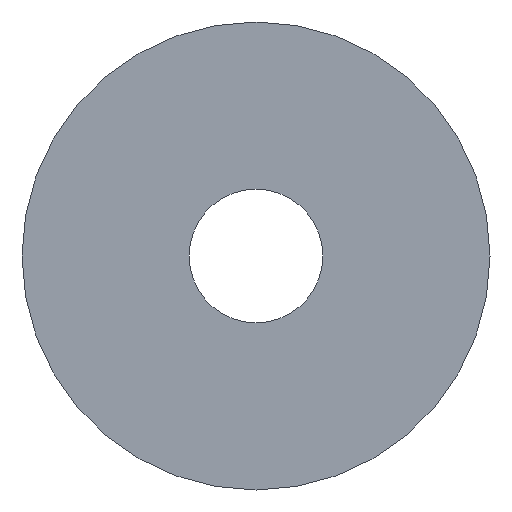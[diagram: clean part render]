
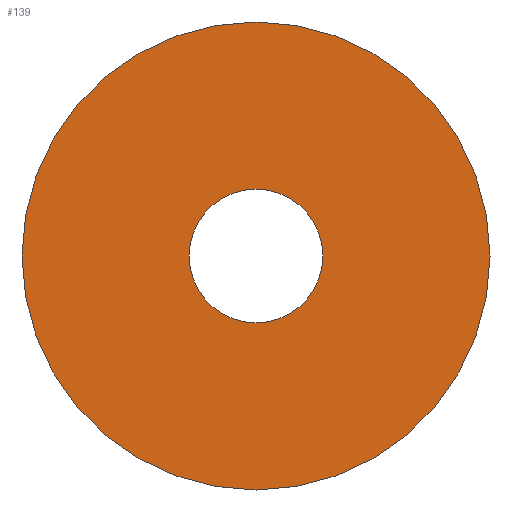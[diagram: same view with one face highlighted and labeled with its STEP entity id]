
A CAD part, left-side view. The second image highlights one B-rep face of the part: STEP entity #139.
In plain terms, the highlighted planar face has unit normal (-1, 0, 0).
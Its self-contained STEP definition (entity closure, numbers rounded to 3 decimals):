
#31 = CYLINDRICAL_SURFACE('',#32,3.5);
#32 = AXIS2_PLACEMENT_3D('',#33,#34,#35);
#33 = CARTESIAN_POINT('',(-53.,28.,244.5));
#34 = DIRECTION('',(1.,0.,0.));
#35 = DIRECTION('',(0.,0.,1.));
#56 = VERTEX_POINT('',#57);
#57 = CARTESIAN_POINT('',(-53.,28.,241.));
#77 = EDGE_CURVE('',#56,#56,#78,.T.);
#78 = SURFACE_CURVE('',#79,(#84,#91),.PCURVE_S1.);
#79 = CIRCLE('',#80,3.5);
#80 = AXIS2_PLACEMENT_3D('',#81,#82,#83);
#81 = CARTESIAN_POINT('',(-53.,28.,244.5));
#82 = DIRECTION('',(1.,-0.,0.));
#83 = DIRECTION('',(0.,0.,-1.));
#84 = PCURVE('',#31,#85);
#85 = DEFINITIONAL_REPRESENTATION('',(#86),#90);
#86 = LINE('',#87,#88);
#87 = CARTESIAN_POINT('',(3.142,0.));
#88 = VECTOR('',#89,1.);
#89 = DIRECTION('',(1.,0.));
#90 = ( GEOMETRIC_REPRESENTATION_CONTEXT(2) 
PARAMETRIC_REPRESENTATION_CONTEXT() REPRESENTATION_CONTEXT('2D SPACE',''
  ) );
#91 = PCURVE('',#92,#97);
#92 = PLANE('',#93);
#93 = AXIS2_PLACEMENT_3D('',#94,#95,#96);
#94 = CARTESIAN_POINT('',(-53.,28.,244.5));
#95 = DIRECTION('',(1.,0.,0.));
#96 = DIRECTION('',(0.,0.,1.));
#97 = DEFINITIONAL_REPRESENTATION('',(#98),#102);
#98 = CIRCLE('',#99,3.5);
#99 = AXIS2_PLACEMENT_2D('',#100,#101);
#100 = CARTESIAN_POINT('',(0.,0.));
#101 = DIRECTION('',(-1.,0.));
#102 = ( GEOMETRIC_REPRESENTATION_CONTEXT(2) 
PARAMETRIC_REPRESENTATION_CONTEXT() REPRESENTATION_CONTEXT('2D SPACE',''
  ) );
#128 = CYLINDRICAL_SURFACE('',#129,1.);
#129 = AXIS2_PLACEMENT_3D('',#130,#131,#132);
#130 = CARTESIAN_POINT('',(-53.,28.,244.5));
#131 = DIRECTION('',(1.,0.,0.));
#132 = DIRECTION('',(0.,0.,1.));
#139 = ADVANCED_FACE('',(#140,#143),#92,.F.);
#140 = FACE_BOUND('',#141,.T.);
#141 = EDGE_LOOP('',(#142));
#142 = ORIENTED_EDGE('',*,*,#77,.F.);
#143 = FACE_BOUND('',#144,.T.);
#144 = EDGE_LOOP('',(#145));
#145 = ORIENTED_EDGE('',*,*,#146,.T.);
#146 = EDGE_CURVE('',#147,#147,#149,.T.);
#147 = VERTEX_POINT('',#148);
#148 = CARTESIAN_POINT('',(-53.,28.,243.5));
#149 = SURFACE_CURVE('',#150,(#155,#162),.PCURVE_S1.);
#150 = CIRCLE('',#151,1.);
#151 = AXIS2_PLACEMENT_3D('',#152,#153,#154);
#152 = CARTESIAN_POINT('',(-53.,28.,244.5));
#153 = DIRECTION('',(1.,-0.,0.));
#154 = DIRECTION('',(0.,0.,-1.));
#155 = PCURVE('',#92,#156);
#156 = DEFINITIONAL_REPRESENTATION('',(#157),#161);
#157 = CIRCLE('',#158,1.);
#158 = AXIS2_PLACEMENT_2D('',#159,#160);
#159 = CARTESIAN_POINT('',(0.,0.));
#160 = DIRECTION('',(-1.,0.));
#161 = ( GEOMETRIC_REPRESENTATION_CONTEXT(2) 
PARAMETRIC_REPRESENTATION_CONTEXT() REPRESENTATION_CONTEXT('2D SPACE',''
  ) );
#162 = PCURVE('',#128,#163);
#163 = DEFINITIONAL_REPRESENTATION('',(#164),#168);
#164 = LINE('',#165,#166);
#165 = CARTESIAN_POINT('',(3.142,0.));
#166 = VECTOR('',#167,1.);
#167 = DIRECTION('',(1.,0.));
#168 = ( GEOMETRIC_REPRESENTATION_CONTEXT(2) 
PARAMETRIC_REPRESENTATION_CONTEXT() REPRESENTATION_CONTEXT('2D SPACE',''
  ) );
